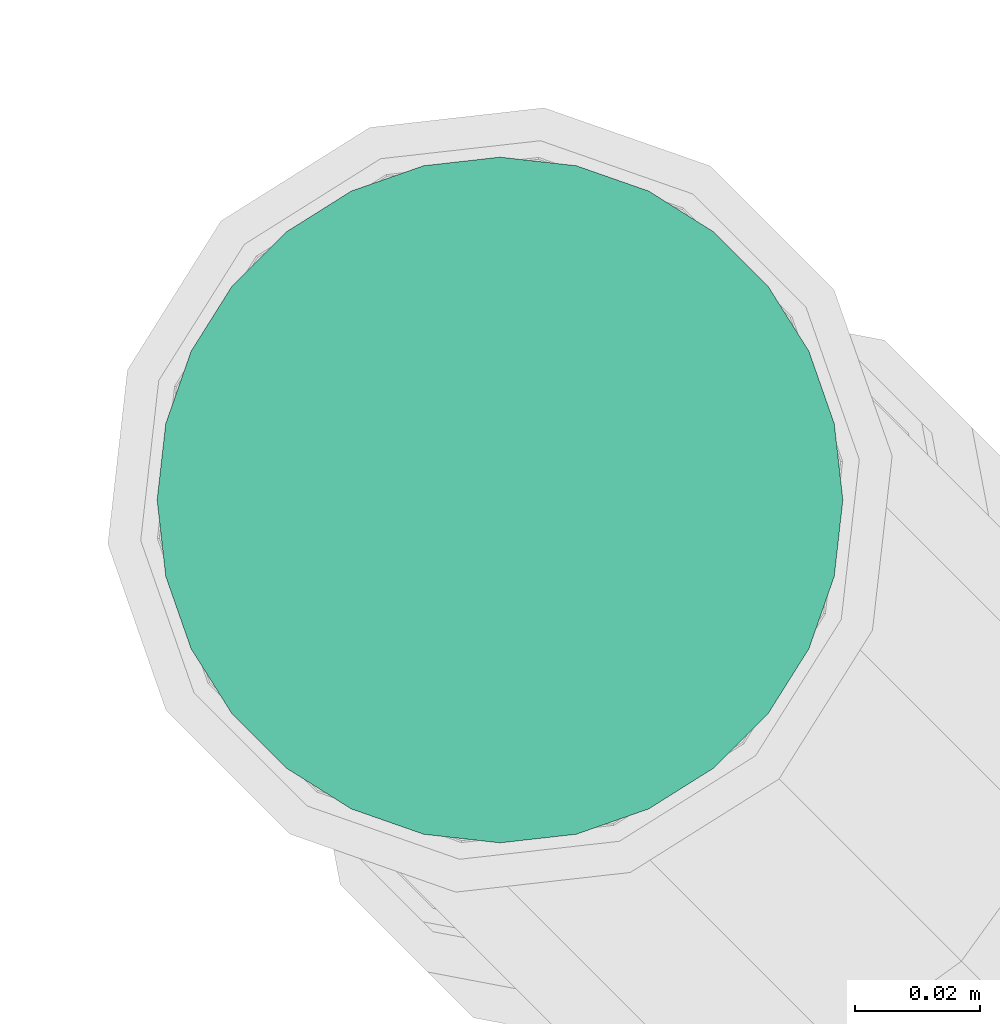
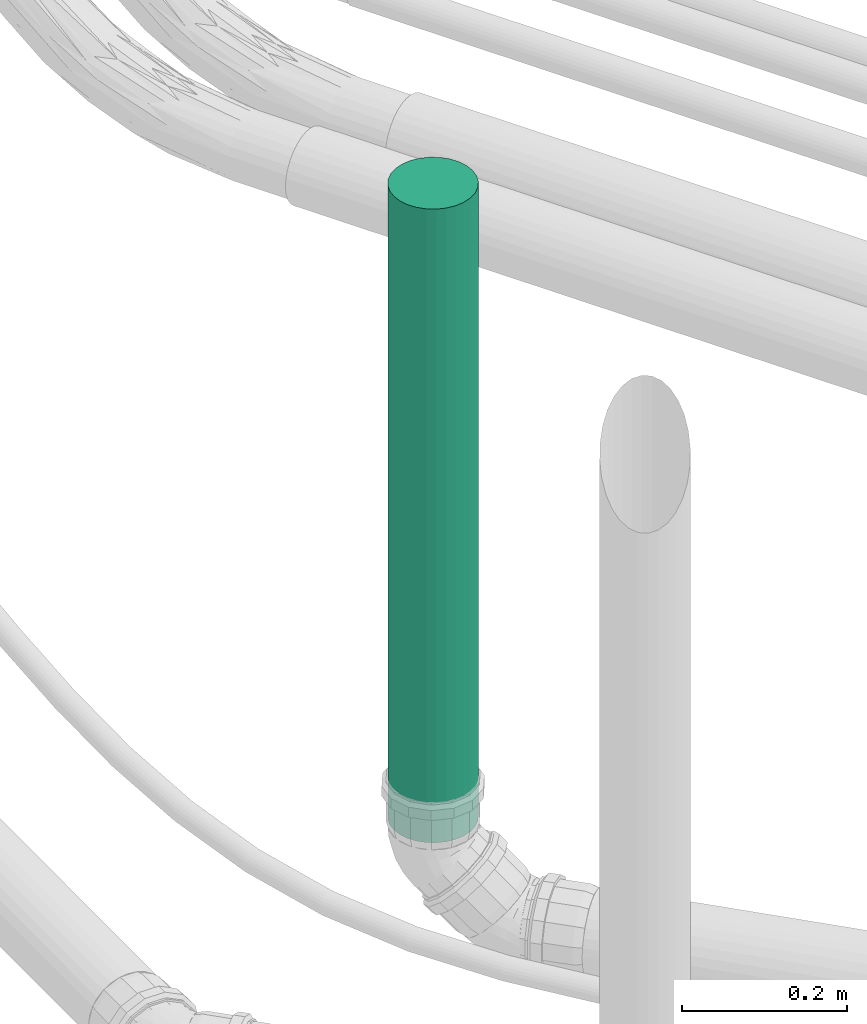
# One storey, part 12 of 18: 1 pipe segment.
"""IFC4 building model written with IfcOpenShell, lengths in centimetres."""

from ifc_helpers import new_model, entity, si_unit, converted_unit, derived_unit, direction, frame, origin, place, context, subcontext, project, spatial, arc, indexed_curve, outline, extrude, type_object, element, save


model = new_model("IFC4")

# Units and contexts
model_context = context("Model", 3, precision=0.001, world=origin(), true_north=direction((6.123233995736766e-17, 1.0)))
body_context = subcontext(model_context, "Body", "Model", "MODEL_VIEW")
ifc_project = project(units=[si_unit("LENGTHUNIT", "METRE", prefix="CENTI"), si_unit("AREAUNIT", "SQUARE_METRE"), converted_unit("PLANEANGLEUNIT", "DEGREE", entity("IfcPlaneAngleMeasure", 0.017453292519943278), si_unit("PLANEANGLEUNIT", "RADIAN"), dimensions=[0, 0, 0, 0, 0, 0, 0]), si_unit("VOLUMEUNIT", "CUBIC_METRE"), derived_unit("THERMALTRANSMITTANCEUNIT", [(si_unit("MASSUNIT", "GRAM", prefix="KILO"), 1), (si_unit("THERMODYNAMICTEMPERATUREUNIT", "KELVIN"), -1), (si_unit("TIMEUNIT", "SECOND"), -3)])], contexts=[model_context])

# Site, building, storey
site_placement = place(None, frame((-0.003347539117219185, 0.0, 0.0)))
site = spatial("IfcSite", under=ifc_project, at=site_placement, Name="Default", CompositionType="ELEMENT")
building_placement = place(site_placement, origin())
building = spatial("IfcBuilding", under=site, at=building_placement, CompositionType="ELEMENT")
storey_placement = place(building_placement, frame((0.0, 0.0, -30.0)))
storey = spatial("IfcBuildingStorey", under=building, at=storey_placement, Name="Fondation B.O.", CompositionType="ELEMENT", Elevation=-30.0)

# Pipe segment
pipe_segment_type = type_object("IfcPipeSegmentType", Name="Canalisation:Valsir PP3", PredefinedType="NOTDEFINED")
pipe_segment_placement = place(storey_placement, origin())
element("IfcPipeSegment", 1, at=pipe_segment_placement, inside=storey, type_object=pipe_segment_type, Name="Canalisation:Valsir PP3", ObjectType="Canalisation:Valsir PP3", PredefinedType="NOTDEFINED", context=body_context, shape_type="SweptSolid", body=[
    extrude(outline(indexed_curve([(5.500000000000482, 4.331468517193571e-13), (3.889087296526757, 3.8890872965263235), (8.662937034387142e-13, 5.500000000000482), (-3.889087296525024, 3.8890872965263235), (-5.4999999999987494, 4.331468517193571e-13), (-3.889087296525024, -3.8890872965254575), (8.662937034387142e-13, -5.499999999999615), (3.889087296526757, -3.8890872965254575)], segments=[arc(1, 2, 3), arc(3, 4, 5), arc(5, 6, 7), arc(7, 8, 1)], self_intersect=False)), frame((-6026.426041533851, -2055.513383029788, -23.95011861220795)), (0.0, 0.0, 1.0), 93.64531861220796),
])

save(model, "model.ifc")
